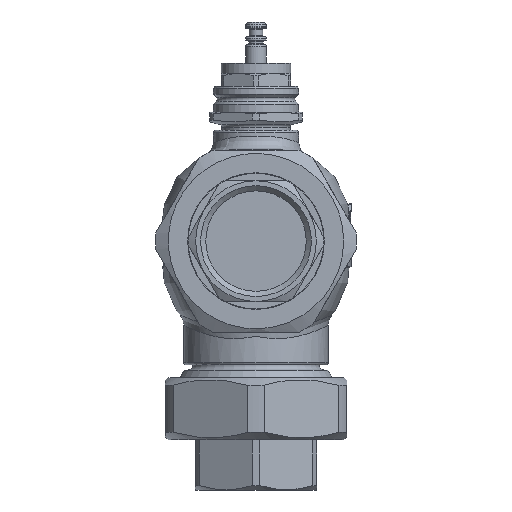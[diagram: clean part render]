
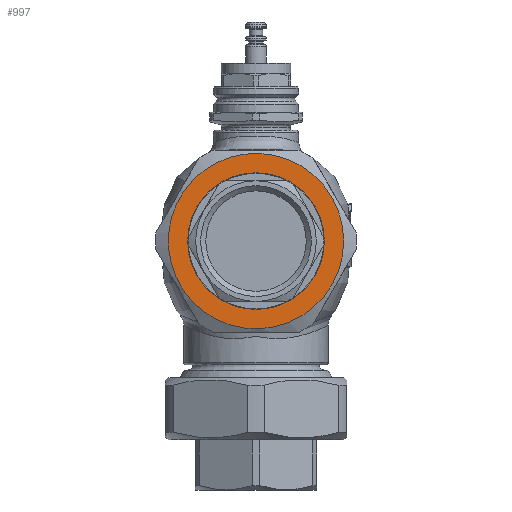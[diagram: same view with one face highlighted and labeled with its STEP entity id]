
A CAD part, left-side view. The second image highlights one B-rep face of the part: STEP entity #997.
In plain terms, the highlighted planar face has unit normal (-1, 0, 0).
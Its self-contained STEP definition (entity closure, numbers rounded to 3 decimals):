
#997=ADVANCED_FACE('',(#1350,#1351),#1122,.T.);
#1122=PLANE('',#4194);
#1350=FACE_BOUND('',#1711,.T.);
#1351=FACE_BOUND('',#1712,.T.);
#1711=EDGE_LOOP('',(#2576));
#1712=EDGE_LOOP('',(#2577));
#2576=ORIENTED_EDGE('',*,*,#3502,.T.);
#2577=ORIENTED_EDGE('',*,*,#3503,.T.);
#3043=VERTEX_POINT('',#12331);
#3044=VERTEX_POINT('',#12333);
#3502=EDGE_CURVE('',#3043,#3043,#3766,.T.);
#3503=EDGE_CURVE('',#3044,#3044,#3767,.T.);
#3766=CIRCLE('',#4192,26.5);
#3767=CIRCLE('',#4193,34.);
#4192=AXIS2_PLACEMENT_3D('',#12330,#5158,#5159);
#4193=AXIS2_PLACEMENT_3D('',#12332,#5160,#5161);
#4194=AXIS2_PLACEMENT_3D('',#12334,#5162,#5163);
#5158=DIRECTION('',(1.,0.,0.));
#5159=DIRECTION('',(0.,1.,0.));
#5160=DIRECTION('',(-1.,0.,0.));
#5161=DIRECTION('',(0.,-1.,0.));
#5162=DIRECTION('',(-1.,0.,0.));
#5163=DIRECTION('',(0.,-1.,0.));
#12330=CARTESIAN_POINT('',(23.,0.,100.));
#12331=CARTESIAN_POINT('',(23.,26.5,100.));
#12332=CARTESIAN_POINT('',(23.,0.,100.));
#12333=CARTESIAN_POINT('',(23.,-34.,100.));
#12334=CARTESIAN_POINT('',(23.,0.,100.));
